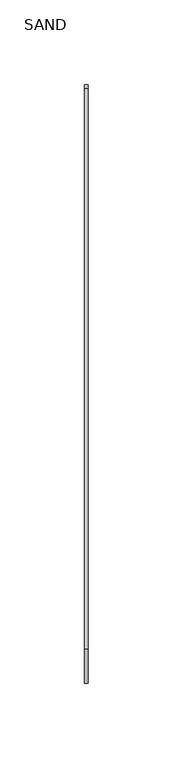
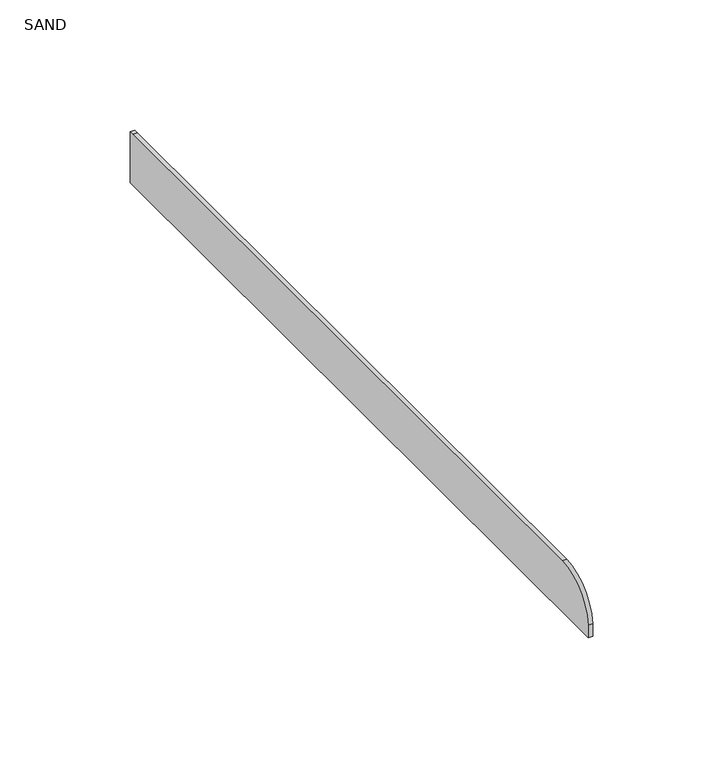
"""IFC4 building model written with IfcOpenShell, lengths in millimetres: proxy geometry, PORTOBELLO - BORDA MONOLITH STEP SAND 35X60 EXT BOLD : SAND."""

from ifc_helpers import new_model, si_unit, point, frame, frame_2d, origin, place, context, project, spatial, polyline, circle_curve, trimmed, segment, composite_curve, outline, extrude, source, transform, mapped, element, save


def sand_cc441fb2(model_context):
    return source(origin(), model_context, "Body", "SweptSolid", [
        extrude(outline(composite_curve([segment(polyline([(352.0017831, 0.0), (352.0017831, -24.0002568), (0.0017788, -24.0002568), (0.0017788, -17.9840003)]), True, "CONTINUOUS"), segment(trimmed(circle_curve(frame_2d((20.1053059, -20.2271524)), 20.2282854), [point((0.0017788, -17.9840003))], [point((19.891206, 0.0))], False, "CARTESIAN"), True, "CONTINUOUS"), segment(polyline([(19.891206, 0.0), (350.0017831, 0.0), (352.0017831, 0.0)]), True, "CONTINUOUS")], self_intersect=False)), frame((2698.0, 0.0, 0.0), z_axis=(1.0, 0.0, 0.0), x_axis=(0.0, 1.0, 0.0)), (0.0, 0.0, 1.0), 2.0),
    ])


if __name__ == "__main__":
    model = new_model("IFC4")
    model_context = context("Model", 3, world=origin())
    ifc_project = project(units=[si_unit("LENGTHUNIT", "METRE", prefix="MILLI")], contexts=[model_context])
    site = spatial("IfcSite", under=ifc_project)
    building = spatial("IfcBuilding", under=site)
    placement = place(None, origin())
    sand_shape = sand_cc441fb2(model_context)
    element("IfcBuildingElementProxy", 1, Name="PORTOBELLO - BORDA MONOLITH STEP SAND 35X60 EXT BOLD : SAND", ObjectType="PORTOBELLO - BORDA MONOLITH STEP SAND 35X60 EXT BOLD : SAND", at=placement, inside=building, context=model_context, shape_type="MappedRepresentation", body=[
        mapped(sand_shape, transform((0.0, 0.0, 0.0), x_axis=(1.0, 0.0, 0.0), y_axis=(0.0, 1.0, 0.0), z_axis=(0.0, 0.0, 1.0))),
    ])
    save(model, "model.ifc")
